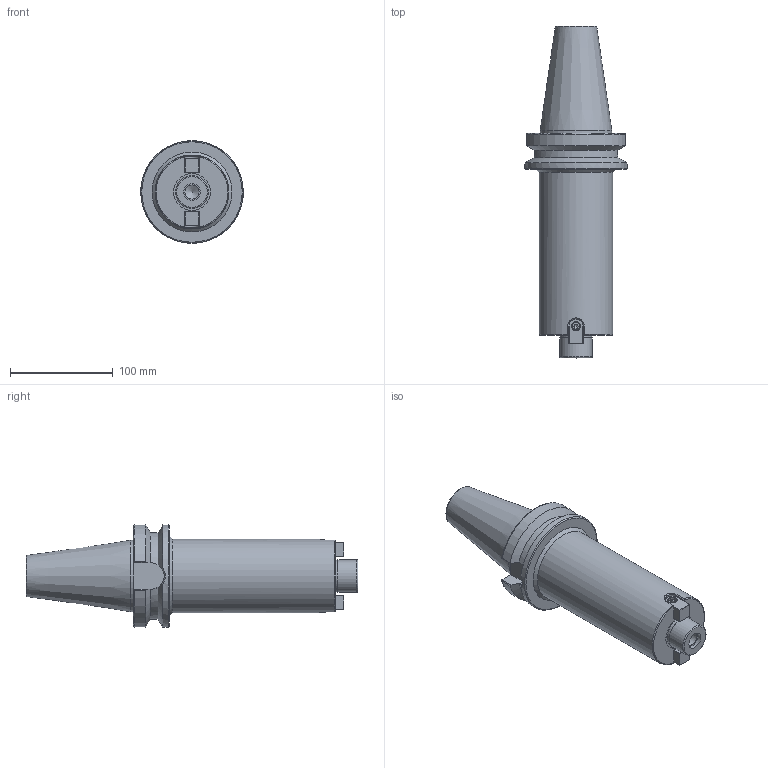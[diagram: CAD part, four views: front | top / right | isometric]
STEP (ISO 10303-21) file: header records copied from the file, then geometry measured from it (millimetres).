
FILE_DESCRIPTION(/* description */ (''),/* implementation_level */ '2;1');
FILE_NAME(/* name */ 'BT50-FMB32-200.stp',/* time_stamp */ '2025-10-07T09:20:48+03:00',/* author */ ('User'),/* organization */ (''),/* preprocessor_version */ 'ST-DEVELOPER v19.2',/* originating_system */ 'Autodesk Inventor 2024',/* authorisation */ '');
FILE_SCHEMA (('AUTOMOTIVE_DESIGN { 1 0 10303 214 3 1 1 }'));
Length unit declared in the file: millimetre
Products named in the file (4): BT50-FMB32-200; BT50-FMB40-100 правка; Сухарь; ANSI B18.3.1M - M5x0,8 x 12, BSHCSM
Assembly tree (5 placements, depth 2):
  BT50-FMB32-200
    BT50-FMB40-100 правка
    Сухарь  x2
    ANSI B18.3.1M - M5x0,8 x 12, BSHCSM  x2
Bounding box: 100 x 323.8 x 100 mm (x, y, z)
Volume: 1136715.3 mm3; surface area: 95832.5 mm2
Topology: 5 solids, 5 shells, 150 faces, 342 edges, 215 vertices
Faces by surface type: plane 61, cylinder 46, cone 16, torus 15, sphere 8, bspline 4
Full cylindrical faces by diameter (mm): 4.134 x4, 5 x2, 8.5 x4, 13.835 x1, 16.3 x1, 20.752 x1, 25 x1, 31 x1, 32 x1, 36 x1, 69.85 x1, 72 x1, 100 x1
Entity records: 3723 total; most frequent: CARTESIAN_POINT 1025, DIRECTION 535, ORIENTED_EDGE 512, EDGE_CURVE 256, AXIS2_PLACEMENT_3D 214, VERTEX_POINT 165, EDGE_LOOP 127, FACE_OUTER_BOUND 111
